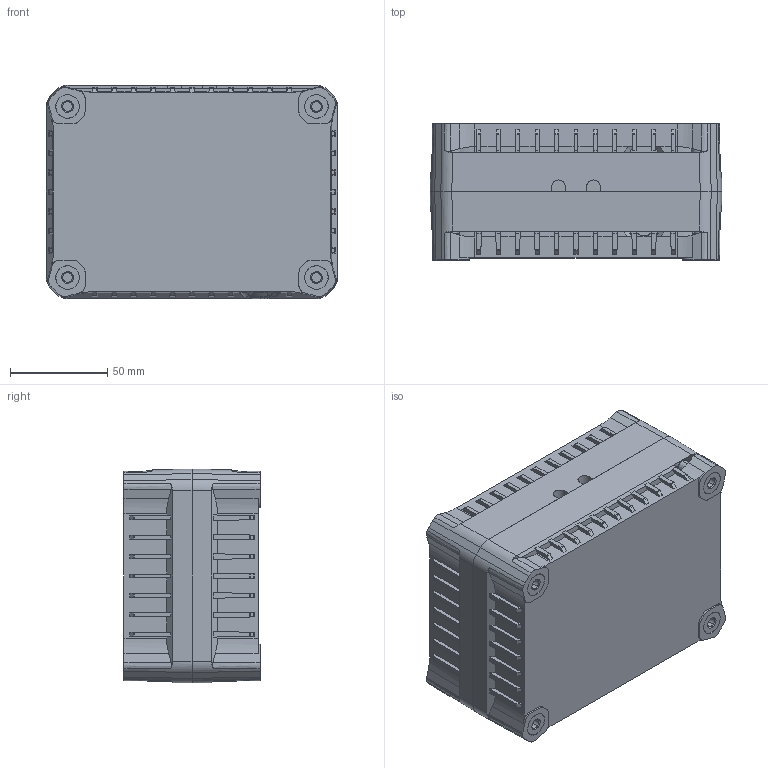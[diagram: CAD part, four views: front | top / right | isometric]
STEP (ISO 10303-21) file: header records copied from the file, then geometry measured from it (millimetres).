
FILE_DESCRIPTION (( 'STEP AP203' ), '1' );
FILE_NAME ('S-1282H.STEP', '2018-05-28T10:09:01', ( '' ), ( '' ), 'SwSTEP 2.0', 'SolidWorks 2018', '' );
FILE_SCHEMA (( 'CONFIG_CONTROL_DESIGN' ));
Length unit declared in the file: millimetre
Products named in the file (1): S-1282H
Bounding box: 150 x 70 x 110 mm (x, y, z)
Volume: 668178.3 mm3; surface area: 176346.4 mm2
Topology: 6 solids, 11 shells, 1996 faces, 6131 edges, 4137 vertices
Faces by surface type: plane 1080, cylinder 439, bspline 266, cone 186, torus 25
Entity records: 116390 total; most frequent: CARTESIAN_POINT 66222, ORIENTED_EDGE 12246, DIRECTION 8102, EDGE_CURVE 6123, VERTEX_POINT 4137, VECTOR 3190, LINE 3190, AXIS2_PLACEMENT_3D 2456
